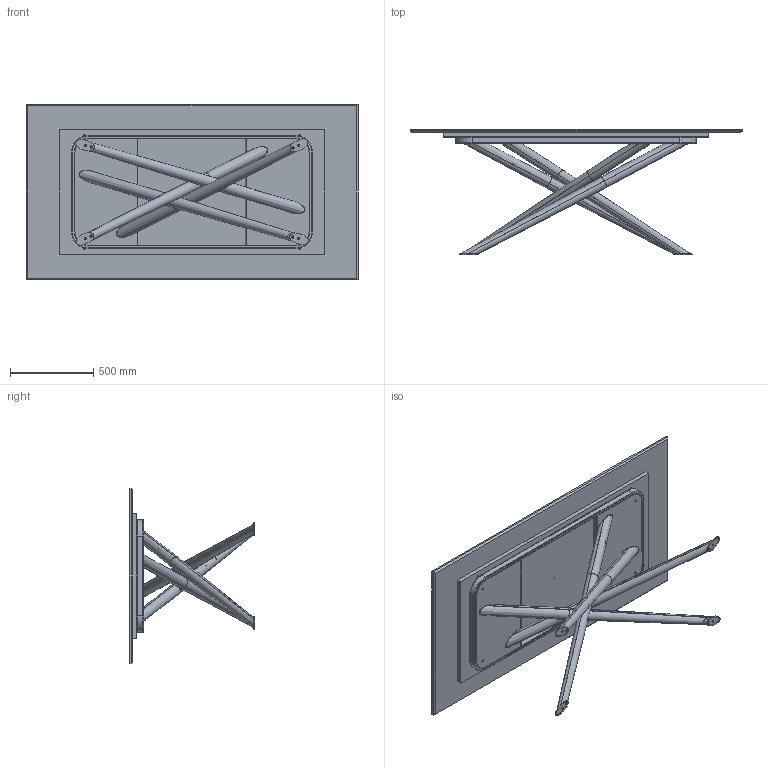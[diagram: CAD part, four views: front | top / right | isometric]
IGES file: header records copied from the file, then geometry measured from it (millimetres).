
Start section: SolidWorks IGES file using analytic representation for surfaces
Global section: file name: Y:\eforma\TECNICO\SOLIDWORKS\E-FORMA\1-TAVOLI\BALY\02 parts\BA21M.IGS; native system: SolidWorks 2022; preprocessor: SolidWorks 2022; author: eforma.tech; date: 240808.081746; units: millimetre
Bounding box: 2000 x 754 x 1060 mm (x, y, z)
Volume: 77882832.6 mm3; surface area: 11079442.3 mm2
Topology: 28 solids, 28 shells, 714 faces, 1514 edges, 831 vertices
Faces by surface type: revolution 396, plane 300, bspline 18
